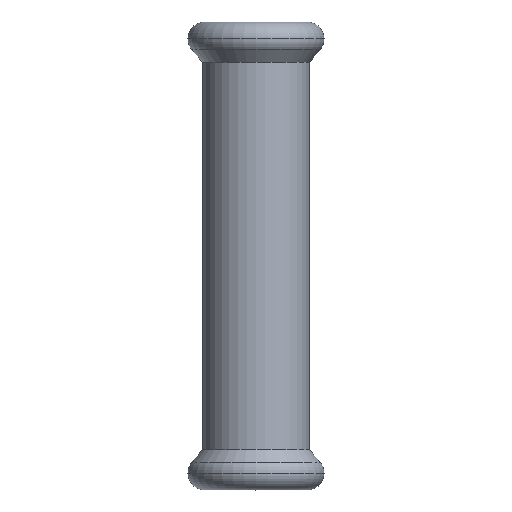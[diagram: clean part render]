
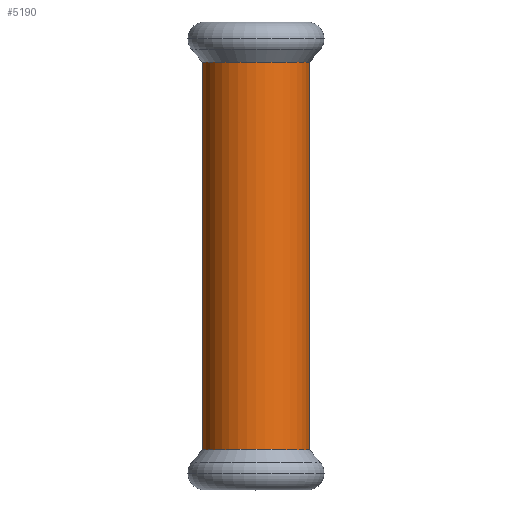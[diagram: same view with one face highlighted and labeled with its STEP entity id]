
A CAD part, top view. The second image highlights one B-rep face of the part: STEP entity #5190.
In plain terms, the highlighted cylindrical face has radius 9.125 mm (diameter 18.25 mm), a partial arc.
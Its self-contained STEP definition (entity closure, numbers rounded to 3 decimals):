
#2820=CARTESIAN_POINT('',(-87.068,54.512,0.));
#2830=VERTEX_POINT('',#2820);
#3010=CARTESIAN_POINT('',(-105.318,54.512,
0.));
#3020=VERTEX_POINT('',#3010);
#3050=CARTESIAN_POINT('',(-96.193,54.512,0.));
#3060=DIRECTION('',(0.,1.,0.));
#3070=DIRECTION('',(-1.,0.,0.));
#3080=AXIS2_PLACEMENT_3D('',#3050,#3060,#3070);
#3090=CIRCLE('',#3080,9.125);
#4170=CARTESIAN_POINT('',(-105.318,-11.695,0.));
#4180=VERTEX_POINT('',#4170);
#4360=CARTESIAN_POINT('',(-87.068,-11.695,
0.));
#4370=VERTEX_POINT('',#4360);
#4400=CARTESIAN_POINT('',(-96.193,-11.695,0.));
#4410=DIRECTION('',(0.,-1.,0.));
#4420=DIRECTION('',(1.,0.,0.));
#4430=AXIS2_PLACEMENT_3D('',#4400,#4410,#4420);
#4440=CIRCLE('',#4430,9.125);
#4890=CARTESIAN_POINT('',(-96.193,-4.87,0.));
#4900=DIRECTION('',(0.,1.,0.));
#4910=DIRECTION('',(1.,0.,0.));
#4920=AXIS2_PLACEMENT_3D('',#4890,#4900,#4910);
#4930=CYLINDRICAL_SURFACE('',#4920,9.125);
#4940=CARTESIAN_POINT('',(-105.318,-4.87,
0.));
#4950=DIRECTION('',(0.,1.,0.));
#4960=VECTOR('',#4950,1.);
#4970=LINE('',#4940,#4960);
#4980=EDGE_CURVE('',#4180,#3020,#4970,.T.);
#5010=CARTESIAN_POINT('',(-87.068,-4.87,0.));
#5020=DIRECTION('',(0.,1.,0.));
#5030=VECTOR('',#5020,1.);
#5040=LINE('',#5010,#5030);
#5050=EDGE_CURVE('',#4370,#2830,#5040,.T.);
#5110=EDGE_CURVE('',#4370,#4180,#4440,.T.);
#5120=ORIENTED_EDGE('',*,*,#5110,.F.);
#5130=ORIENTED_EDGE('',*,*,#4980,.F.);
#5140=EDGE_CURVE('',#3020,#2830,#3090,.T.);
#5150=ORIENTED_EDGE('',*,*,#5140,.F.);
#5160=ORIENTED_EDGE('',*,*,#5050,.T.);
#5170=EDGE_LOOP('',(#5160,#5150,#5130,#5120));
#5180=FACE_OUTER_BOUND('',#5170,.T.);
#5190=ADVANCED_FACE('',(#5180),#4930,.T.);
